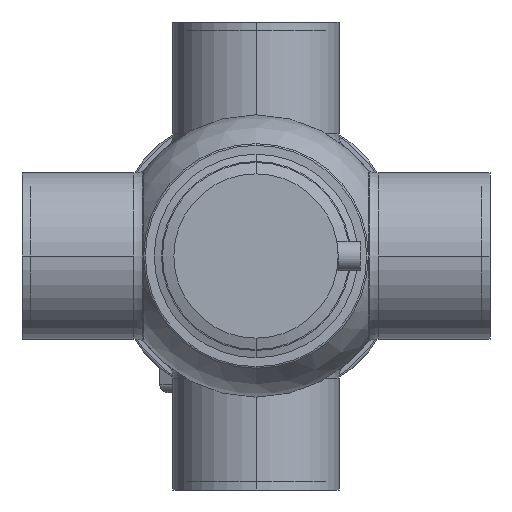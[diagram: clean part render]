
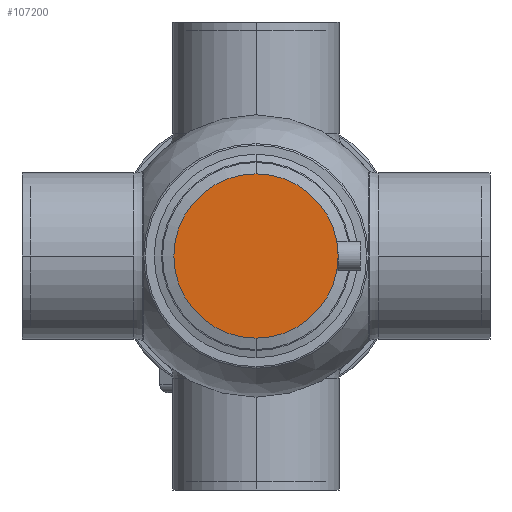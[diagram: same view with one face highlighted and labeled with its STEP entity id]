
A CAD part, front view. The second image highlights one B-rep face of the part: STEP entity #107200.
In plain terms, the highlighted planar face has unit normal (0, -1, 0) as drawn and (0, 0, -1) by its records, which use the part's own axes.
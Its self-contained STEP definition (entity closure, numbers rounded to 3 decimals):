
#98440=CARTESIAN_POINT('',(50.,34.1,-20.));
#98450=VERTEX_POINT('',#98440);
#98500=CARTESIAN_POINT('',(0.,34.1,-20.));
#98510=DIRECTION('',(0.,0.,1.));
#98520=DIRECTION('',(1.,0.,0.));
#98530=AXIS2_PLACEMENT_3D('',#98500,#98510,#98520);
#98540=CIRCLE('',#98530,50.);
#98550=CARTESIAN_POINT('',(-50.,34.1,-20.));
#98560=VERTEX_POINT('',#98550);
#98570=EDGE_CURVE('',#98560,#98450,#98540,.T.);
#107100=CARTESIAN_POINT('',(-48.25,34.1,-20.));
#107110=DIRECTION('',(0.,0.,-1.));
#107120=DIRECTION('',(-1.,0.,0.));
#107130=AXIS2_PLACEMENT_3D('',#107100,#107110,#107120);
#107140=PLANE('',#107130);
#107150=ORIENTED_EDGE('',*,*,#98570,.F.);
#107160=EDGE_CURVE('',#98450,#98560,#98540,.T.);
#107170=ORIENTED_EDGE('',*,*,#107160,.F.);
#107180=EDGE_LOOP('',(#107170,#107150));
#107190=FACE_OUTER_BOUND('',#107180,.T.);
#107200=ADVANCED_FACE('',(#107190),#107140,.T.);
